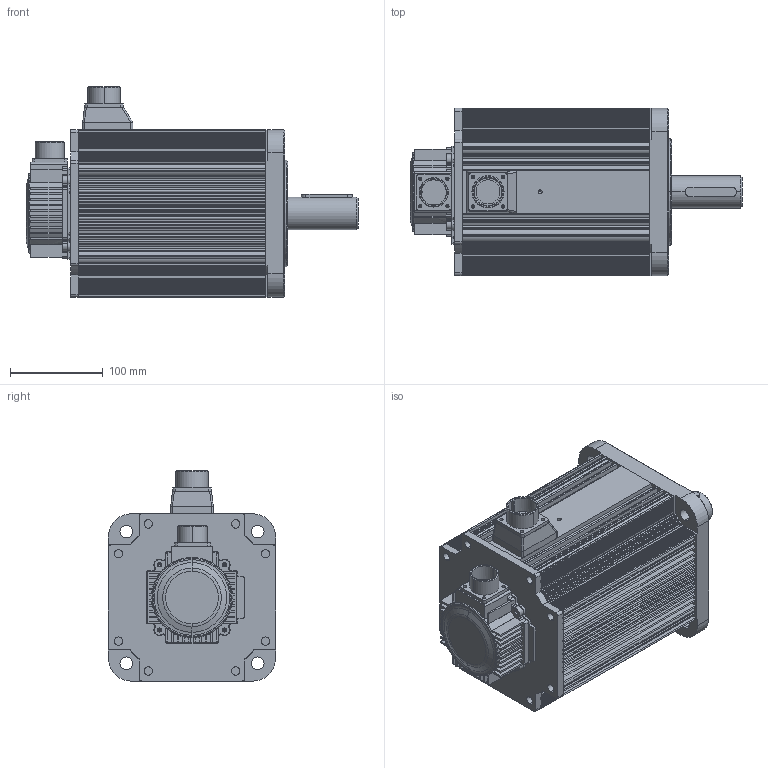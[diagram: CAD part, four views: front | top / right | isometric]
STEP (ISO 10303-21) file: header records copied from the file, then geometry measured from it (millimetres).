
FILE_DESCRIPTION (( 'STEP AP203' ), '1' );
FILE_NAME ('UMM-0050EA-B3_UMM-0050CA-B3_(02).STEP', '2021-12-29T18:11:26', ( '' ), ( '' ), 'SwSTEP 2.0', 'SolidWorks 2020', '' );
FILE_SCHEMA (( 'CONFIG_CONTROL_DESIGN' ));
Length unit declared in the file: millimetre
Products named in the file (1): UMM-0050EA-B3_UMM-0050CA-B3_(02)
Bounding box: 357 x 180 x 226.1 mm (x, y, z)
Volume: 5974343.1 mm3; surface area: 659844.4 mm2
Topology: 12 solids, 14 shells, 2659 faces, 7293 edges, 4760 vertices
Faces by surface type: plane 1211, cylinder 974, bspline 270, cone 134, torus 70
Entity records: 99589 total; most frequent: CARTESIAN_POINT 32289, ORIENTED_EDGE 14478, DIRECTION 13426, EDGE_CURVE 7239, VERTEX_POINT 4760, AXIS2_PLACEMENT_3D 4517, VECTOR 4392, LINE 4392
